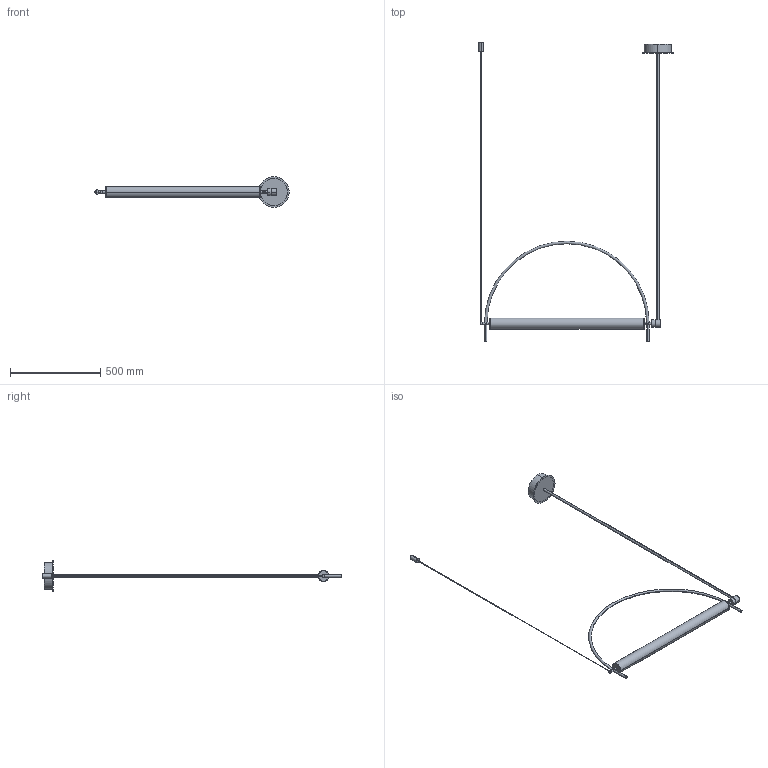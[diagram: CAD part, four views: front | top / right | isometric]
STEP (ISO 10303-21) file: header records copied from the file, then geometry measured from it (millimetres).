
FILE_DESCRIPTION (( 'STEP AP214' ), '1' );
FILE_NAME ('CU1292_ARC.STEP', '2026-06-05T07:34:02', ( '' ), ( '' ), 'SwSTEP 2.0', 'SolidWorks 2023', '' );
FILE_SCHEMA (( 'AUTOMOTIVE_DESIGN' ));
Length unit declared in the file: inch
Products named in the file (1): CU1292_ARC
Bounding box: 1077.66 x 1660.04 x 169.93 mm (x, y, z)
Volume: 1806163.3 mm3; surface area: 573252.1 mm2
Topology: 8 solids, 8 shells, 84 faces, 166 edges, 104 vertices
Faces by surface type: cylinder 48, plane 28, torus 6, cone 2
Entity records: 2638 total; most frequent: CARTESIAN_POINT 745, DIRECTION 406, ORIENTED_EDGE 332, AXIS2_PLACEMENT_3D 177, EDGE_CURVE 166, VERTEX_POINT 104, EDGE_LOOP 96, CIRCLE 92
